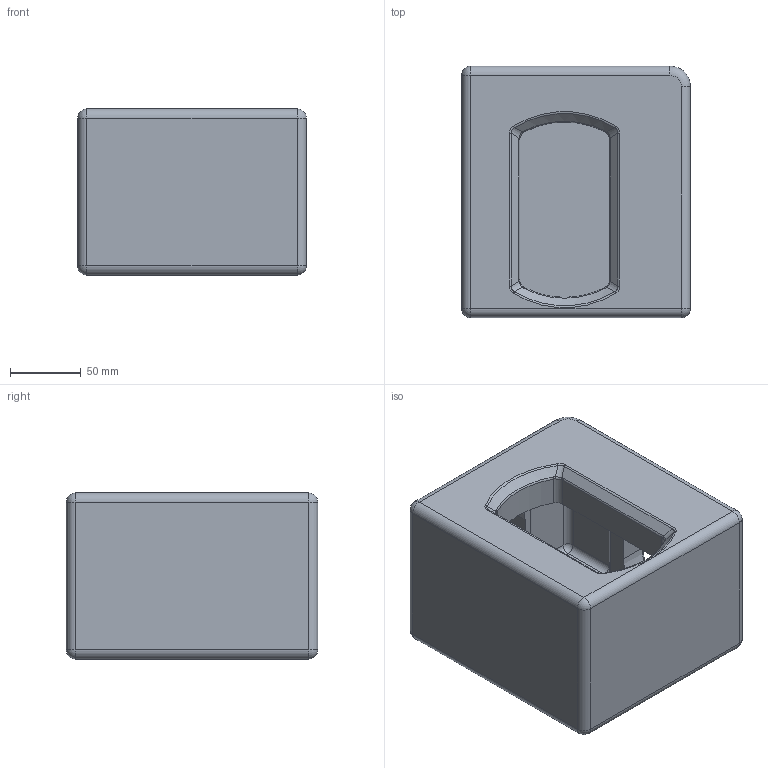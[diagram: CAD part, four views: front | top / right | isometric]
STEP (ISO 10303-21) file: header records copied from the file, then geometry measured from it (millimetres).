
FILE_DESCRIPTION(/* description */ (''),/* implementation_level */ '2;1');
FILE_NAME(/* name */ 'O:\ils2000\Natallia\INVENTOR\AutoCAD stp\NAVACQS\CO-BR.stp',/* time_stamp */ '2018-02-14T16:59:27+01:00',/* author */ ('jori'),/* organization */ (''),/* preprocessor_version */ 'ST-DEVELOPER v16.5',/* originating_system */ 'Autodesk Inventor 2017',/* authorisation */ '');
FILE_SCHEMA (('AUTOMOTIVE_DESIGN { 1 0 10303 214 3 1 1 }'));
Length unit declared in the file: millimetre
Products named in the file (1): CO-BR
Bounding box: 161.9 x 177.8 x 117.5 mm (x, y, z)
Volume: 1367904.8 mm3; surface area: 206052 mm2
Topology: 1 solids, 1 shells, 152 faces, 349 edges, 194 vertices
Faces by surface type: cylinder 60, bspline 32, plane 26, torus 18, sphere 14, cone 2
Entity records: 4932 total; most frequent: CARTESIAN_POINT 1530, DIRECTION 747, ORIENTED_EDGE 690, EDGE_CURVE 345, AXIS2_PLACEMENT_3D 313, VERTEX_POINT 194, CIRCLE 176, EDGE_LOOP 155
